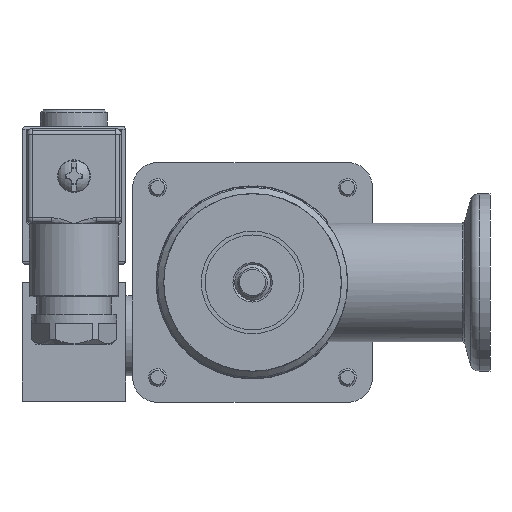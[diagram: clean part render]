
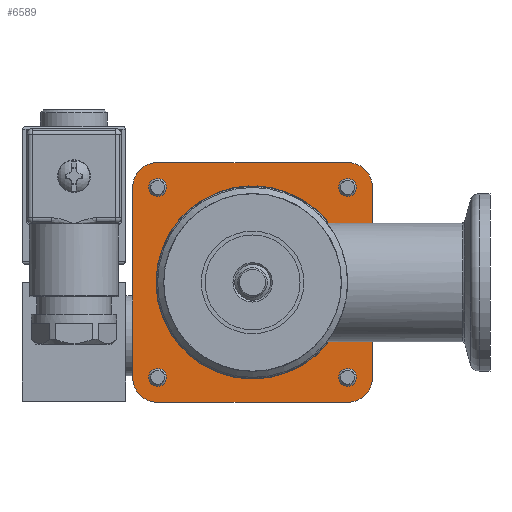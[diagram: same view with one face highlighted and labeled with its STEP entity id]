
A CAD part, front view. The second image highlights one B-rep face of the part: STEP entity #6589.
In plain terms, the highlighted planar face has unit normal (0, -1, 0) as drawn and (0, 1, 0) by its records, which use the part's own axes.
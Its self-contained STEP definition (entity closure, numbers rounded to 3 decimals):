
#4695=LINE('',#23922,#5611);
#4699=LINE('',#23931,#5615);
#4703=LINE('',#23943,#5619);
#4707=LINE('',#23952,#5623);
#4711=LINE('',#23964,#5627);
#4715=LINE('',#23973,#5631);
#4719=LINE('',#23985,#5635);
#4722=LINE('',#24001,#5638);
#4726=LINE('',#24011,#5642);
#4729=LINE('',#24019,#5645);
#4732=LINE('',#24027,#5648);
#4734=LINE('',#24032,#5650);
#5611=VECTOR('',#18875,1.);
#5615=VECTOR('',#18881,1.);
#5619=VECTOR('',#18893,1.);
#5623=VECTOR('',#18899,1.);
#5627=VECTOR('',#18911,1.);
#5631=VECTOR('',#18917,1.);
#5635=VECTOR('',#18929,1.);
#5638=VECTOR('',#18952,1.);
#5642=VECTOR('',#18962,1.);
#5645=VECTOR('',#18971,1.);
#5648=VECTOR('',#18980,1.);
#5650=VECTOR('',#18988,1.);
#6589=ADVANCED_FACE('',(#7489,#7490,#7491,#7492,#7493,#7494),#6992,.T.);
#6992=PLANE('',#15765);
#7489=FACE_BOUND('',#8456,.T.);
#7490=FACE_BOUND('',#8457,.T.);
#7491=FACE_BOUND('',#8458,.T.);
#7492=FACE_BOUND('',#8459,.T.);
#7493=FACE_BOUND('',#8460,.T.);
#7494=FACE_BOUND('',#8461,.T.);
#8456=EDGE_LOOP('',(#11454));
#8457=EDGE_LOOP('',(#11455));
#8458=EDGE_LOOP('',(#11456));
#8459=EDGE_LOOP('',(#11457));
#8460=EDGE_LOOP('',(#11458,#11459,#11460,#11461,#11462,#11463,#11464,#11465));
#8461=EDGE_LOOP('',(#11466,#11467,#11468,#11469,#11470,#11471,#11472,#11473,
#11474,#11475,#11476,#11477,#11478,#11479,#11480,#11481));
#11454=ORIENTED_EDGE('',*,*,#14118,.F.);
#11455=ORIENTED_EDGE('',*,*,#14119,.F.);
#11456=ORIENTED_EDGE('',*,*,#14120,.F.);
#11457=ORIENTED_EDGE('',*,*,#14121,.F.);
#11458=ORIENTED_EDGE('',*,*,#14101,.T.);
#11459=ORIENTED_EDGE('',*,*,#14104,.T.);
#11460=ORIENTED_EDGE('',*,*,#14106,.T.);
#11461=ORIENTED_EDGE('',*,*,#14108,.T.);
#11462=ORIENTED_EDGE('',*,*,#14110,.T.);
#11463=ORIENTED_EDGE('',*,*,#14112,.T.);
#11464=ORIENTED_EDGE('',*,*,#14114,.T.);
#11465=ORIENTED_EDGE('',*,*,#14115,.T.);
#11466=ORIENTED_EDGE('',*,*,#14057,.T.);
#11467=ORIENTED_EDGE('',*,*,#14060,.T.);
#11468=ORIENTED_EDGE('',*,*,#14099,.T.);
#11469=ORIENTED_EDGE('',*,*,#14064,.T.);
#11470=ORIENTED_EDGE('',*,*,#14067,.T.);
#11471=ORIENTED_EDGE('',*,*,#14070,.T.);
#11472=ORIENTED_EDGE('',*,*,#14097,.T.);
#11473=ORIENTED_EDGE('',*,*,#14074,.T.);
#11474=ORIENTED_EDGE('',*,*,#14077,.T.);
#11475=ORIENTED_EDGE('',*,*,#14080,.T.);
#11476=ORIENTED_EDGE('',*,*,#14095,.T.);
#11477=ORIENTED_EDGE('',*,*,#14084,.T.);
#11478=ORIENTED_EDGE('',*,*,#14087,.T.);
#11479=ORIENTED_EDGE('',*,*,#14090,.T.);
#11480=ORIENTED_EDGE('',*,*,#14093,.T.);
#11481=ORIENTED_EDGE('',*,*,#14117,.T.);
#12562=VERTEX_POINT('',#23910);
#12565=VERTEX_POINT('',#23915);
#12567=VERTEX_POINT('',#23921);
#12568=VERTEX_POINT('',#23925);
#12571=VERTEX_POINT('',#23930);
#12573=VERTEX_POINT('',#23936);
#12575=VERTEX_POINT('',#23942);
#12576=VERTEX_POINT('',#23946);
#12579=VERTEX_POINT('',#23951);
#12581=VERTEX_POINT('',#23957);
#12583=VERTEX_POINT('',#23963);
#12584=VERTEX_POINT('',#23967);
#12587=VERTEX_POINT('',#23972);
#12589=VERTEX_POINT('',#23978);
#12591=VERTEX_POINT('',#23984);
#12593=VERTEX_POINT('',#23990);
#12594=VERTEX_POINT('',#24000);
#12595=VERTEX_POINT('',#24002);
#12596=VERTEX_POINT('',#24006);
#12597=VERTEX_POINT('',#24010);
#12598=VERTEX_POINT('',#24014);
#12599=VERTEX_POINT('',#24018);
#12600=VERTEX_POINT('',#24022);
#12601=VERTEX_POINT('',#24026);
#12602=VERTEX_POINT('',#24035);
#12603=VERTEX_POINT('',#24037);
#12604=VERTEX_POINT('',#24039);
#12605=VERTEX_POINT('',#24041);
#14057=EDGE_CURVE('',#12562,#12565,#14598,.T.);
#14060=EDGE_CURVE('',#12565,#12567,#4695,.T.);
#14064=EDGE_CURVE('',#12568,#12571,#4699,.T.);
#14067=EDGE_CURVE('',#12571,#12573,#14600,.T.);
#14070=EDGE_CURVE('',#12573,#12575,#4703,.T.);
#14074=EDGE_CURVE('',#12576,#12579,#4707,.T.);
#14077=EDGE_CURVE('',#12579,#12581,#14602,.T.);
#14080=EDGE_CURVE('',#12581,#12583,#4711,.T.);
#14084=EDGE_CURVE('',#12584,#12587,#4715,.T.);
#14087=EDGE_CURVE('',#12587,#12589,#14604,.T.);
#14090=EDGE_CURVE('',#12589,#12591,#4719,.T.);
#14093=EDGE_CURVE('',#12591,#12593,#14606,.T.);
#14095=EDGE_CURVE('',#12583,#12584,#14608,.T.);
#14097=EDGE_CURVE('',#12575,#12576,#14610,.T.);
#14099=EDGE_CURVE('',#12567,#12568,#14612,.T.);
#14101=EDGE_CURVE('',#12595,#12594,#4722,.T.);
#14104=EDGE_CURVE('',#12594,#12596,#14613,.T.);
#14106=EDGE_CURVE('',#12596,#12597,#4726,.T.);
#14108=EDGE_CURVE('',#12597,#12598,#14614,.T.);
#14110=EDGE_CURVE('',#12598,#12599,#4729,.T.);
#14112=EDGE_CURVE('',#12599,#12600,#14615,.T.);
#14114=EDGE_CURVE('',#12600,#12601,#4732,.T.);
#14115=EDGE_CURVE('',#12601,#12595,#14616,.T.);
#14117=EDGE_CURVE('',#12593,#12562,#4734,.T.);
#14118=EDGE_CURVE('',#12602,#12602,#14617,.T.);
#14119=EDGE_CURVE('',#12603,#12603,#14618,.T.);
#14120=EDGE_CURVE('',#12604,#12604,#14619,.T.);
#14121=EDGE_CURVE('',#12605,#12605,#14620,.T.);
#14598=CIRCLE('',#15721,16.1);
#14600=CIRCLE('',#15726,16.1);
#14602=CIRCLE('',#15731,16.1);
#14604=CIRCLE('',#15736,16.1);
#14606=CIRCLE('',#15740,16.275);
#14608=CIRCLE('',#15742,16.275);
#14610=CIRCLE('',#15744,16.275);
#14612=CIRCLE('',#15746,16.275);
#14613=CIRCLE('',#15749,4.2);
#14614=CIRCLE('',#15752,4.2);
#14615=CIRCLE('',#15755,4.2);
#14616=CIRCLE('',#15758,4.2);
#14617=CIRCLE('',#15761,1.5);
#14618=CIRCLE('',#15762,1.5);
#14619=CIRCLE('',#15763,1.5);
#14620=CIRCLE('',#15764,1.5);
#15721=AXIS2_PLACEMENT_3D('',#23916,#18869,#18870);
#15726=AXIS2_PLACEMENT_3D('',#23937,#18887,#18888);
#15731=AXIS2_PLACEMENT_3D('',#23958,#18905,#18906);
#15736=AXIS2_PLACEMENT_3D('',#23979,#18923,#18924);
#15740=AXIS2_PLACEMENT_3D('',#23991,#18935,#18936);
#15742=AXIS2_PLACEMENT_3D('',#23993,#18939,#18940);
#15744=AXIS2_PLACEMENT_3D('',#23995,#18943,#18944);
#15746=AXIS2_PLACEMENT_3D('',#23997,#18947,#18948);
#15749=AXIS2_PLACEMENT_3D('',#24007,#18957,#18958);
#15752=AXIS2_PLACEMENT_3D('',#24015,#18966,#18967);
#15755=AXIS2_PLACEMENT_3D('',#24023,#18975,#18976);
#15758=AXIS2_PLACEMENT_3D('',#24029,#18983,#18984);
#15761=AXIS2_PLACEMENT_3D('',#24034,#18991,#18992);
#15762=AXIS2_PLACEMENT_3D('',#24036,#18993,#18994);
#15763=AXIS2_PLACEMENT_3D('',#24038,#18995,#18996);
#15764=AXIS2_PLACEMENT_3D('',#24040,#18997,#18998);
#15765=AXIS2_PLACEMENT_3D('',#24042,#18999,#19000);
#18869=DIRECTION('',(0.,-1.,0.));
#18870=DIRECTION('',(0.,0.,1.));
#18875=DIRECTION('',(0.,0.,1.));
#18881=DIRECTION('',(1.,0.,0.));
#18887=DIRECTION('',(0.,-1.,0.));
#18888=DIRECTION('',(0.,0.,1.));
#18893=DIRECTION('',(-1.,0.,0.));
#18899=DIRECTION('',(0.,0.,1.));
#18905=DIRECTION('',(0.,-1.,0.));
#18906=DIRECTION('',(0.,0.,1.));
#18911=DIRECTION('',(0.,0.,-1.));
#18917=DIRECTION('',(-1.,0.,0.));
#18923=DIRECTION('',(0.,-1.,0.));
#18924=DIRECTION('',(0.,0.,1.));
#18929=DIRECTION('',(1.,0.,0.));
#18935=DIRECTION('',(0.,-1.,0.));
#18936=DIRECTION('',(0.,0.,1.));
#18939=DIRECTION('',(0.,-1.,0.));
#18940=DIRECTION('',(0.,0.,1.));
#18943=DIRECTION('',(0.,-1.,0.));
#18944=DIRECTION('',(0.,0.,1.));
#18947=DIRECTION('',(0.,-1.,0.));
#18948=DIRECTION('',(0.,0.,1.));
#18952=DIRECTION('',(0.,0.,-1.));
#18957=DIRECTION('',(0.,1.,0.));
#18958=DIRECTION('',(1.,0.,0.));
#18962=DIRECTION('',(-1.,0.,0.));
#18966=DIRECTION('',(0.,1.,0.));
#18967=DIRECTION('',(0.,0.,-1.));
#18971=DIRECTION('',(0.,0.,1.));
#18975=DIRECTION('',(0.,1.,0.));
#18976=DIRECTION('',(-1.,0.,0.));
#18980=DIRECTION('',(1.,0.,0.));
#18983=DIRECTION('',(0.,1.,0.));
#18984=DIRECTION('',(0.,0.,1.));
#18988=DIRECTION('',(0.,0.,-1.));
#18991=DIRECTION('',(0.,1.,0.));
#18992=DIRECTION('',(-1.,0.,0.));
#18993=DIRECTION('',(0.,1.,0.));
#18994=DIRECTION('',(-1.,0.,0.));
#18995=DIRECTION('',(0.,1.,0.));
#18996=DIRECTION('',(-1.,0.,0.));
#18997=DIRECTION('',(0.,1.,0.));
#18998=DIRECTION('',(-1.,0.,0.));
#18999=DIRECTION('',(0.,1.,0.));
#19000=DIRECTION('',(0.,0.,1.));
#23910=CARTESIAN_POINT('',(0.75,6.,16.083));
#23915=CARTESIAN_POINT('',(-0.75,6.,16.083));
#23916=CARTESIAN_POINT('',(0.,6.,0.));
#23921=CARTESIAN_POINT('',(-0.75,6.,16.258));
#23922=CARTESIAN_POINT('',(-0.75,6.,16.083));
#23925=CARTESIAN_POINT('',(-16.258,6.,0.75));
#23930=CARTESIAN_POINT('',(-16.083,6.,0.75));
#23931=CARTESIAN_POINT('',(-16.258,6.,0.75));
#23936=CARTESIAN_POINT('',(-16.083,6.,-0.75));
#23937=CARTESIAN_POINT('',(0.,6.,0.));
#23942=CARTESIAN_POINT('',(-16.258,6.,-0.75));
#23943=CARTESIAN_POINT('',(-16.083,6.,-0.75));
#23946=CARTESIAN_POINT('',(-0.75,6.,-16.258));
#23951=CARTESIAN_POINT('',(-0.75,6.,-16.083));
#23952=CARTESIAN_POINT('',(-0.75,6.,-16.258));
#23957=CARTESIAN_POINT('',(0.75,6.,-16.083));
#23958=CARTESIAN_POINT('',(0.,6.,0.));
#23963=CARTESIAN_POINT('',(0.75,6.,-16.258));
#23964=CARTESIAN_POINT('',(0.75,6.,-16.083));
#23967=CARTESIAN_POINT('',(16.258,6.,-0.75));
#23972=CARTESIAN_POINT('',(16.083,6.,-0.75));
#23973=CARTESIAN_POINT('',(16.258,6.,-0.75));
#23978=CARTESIAN_POINT('',(16.083,6.,0.75));
#23979=CARTESIAN_POINT('',(0.,6.,0.));
#23984=CARTESIAN_POINT('',(16.258,6.,0.75));
#23985=CARTESIAN_POINT('',(16.083,6.,0.75));
#23990=CARTESIAN_POINT('',(0.75,6.,16.258));
#23991=CARTESIAN_POINT('',(0.,6.,0.));
#23993=CARTESIAN_POINT('',(0.,6.,0.));
#23995=CARTESIAN_POINT('',(0.,6.,0.));
#23997=CARTESIAN_POINT('',(0.,6.,0.));
#24000=CARTESIAN_POINT('',(20.2,6.,-16.));
#24001=CARTESIAN_POINT('',(20.2,6.,16.));
#24002=CARTESIAN_POINT('',(20.2,6.,16.));
#24006=CARTESIAN_POINT('',(16.,6.,-20.2));
#24007=CARTESIAN_POINT('',(16.,6.,-16.));
#24010=CARTESIAN_POINT('',(-16.,6.,-20.2));
#24011=CARTESIAN_POINT('',(16.,6.,-20.2));
#24014=CARTESIAN_POINT('',(-20.2,6.,-16.));
#24015=CARTESIAN_POINT('',(-16.,6.,-16.));
#24018=CARTESIAN_POINT('',(-20.2,6.,16.));
#24019=CARTESIAN_POINT('',(-20.2,6.,-16.));
#24022=CARTESIAN_POINT('',(-16.,6.,20.2));
#24023=CARTESIAN_POINT('',(-16.,6.,16.));
#24026=CARTESIAN_POINT('',(16.,6.,20.2));
#24027=CARTESIAN_POINT('',(-16.,6.,20.2));
#24029=CARTESIAN_POINT('',(16.,6.,16.));
#24032=CARTESIAN_POINT('',(0.75,6.,16.258));
#24034=CARTESIAN_POINT('',(-16.,6.,16.));
#24035=CARTESIAN_POINT('',(-17.5,6.,16.));
#24036=CARTESIAN_POINT('',(16.,6.,-16.));
#24037=CARTESIAN_POINT('',(14.5,6.,-16.));
#24038=CARTESIAN_POINT('',(-16.,6.,-16.));
#24039=CARTESIAN_POINT('',(-17.5,6.,-16.));
#24040=CARTESIAN_POINT('',(16.,6.,16.));
#24041=CARTESIAN_POINT('',(14.5,6.,16.));
#24042=CARTESIAN_POINT('',(16.,6.,-16.));
